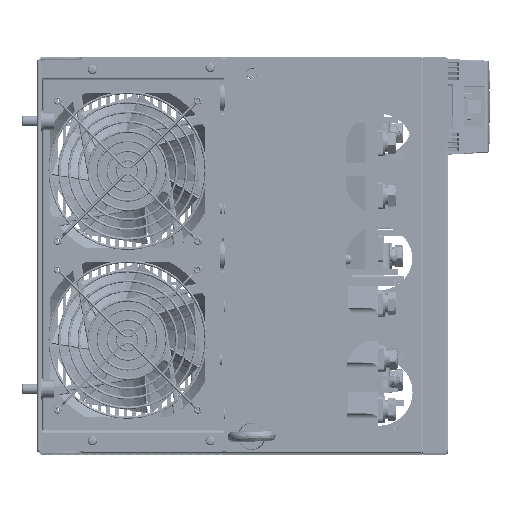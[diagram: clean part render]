
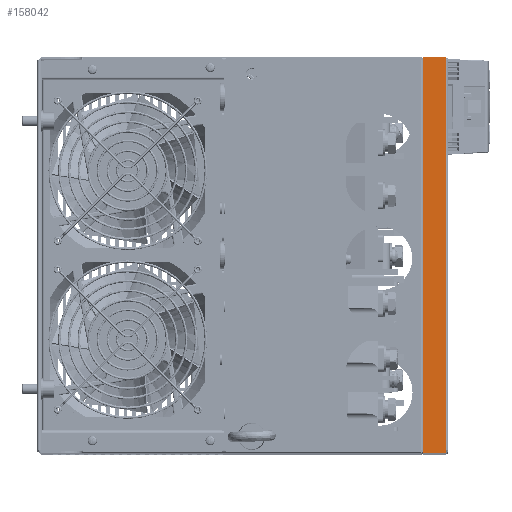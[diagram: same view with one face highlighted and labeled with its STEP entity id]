
A CAD part, top view. The second image highlights one B-rep face of the part: STEP entity #158042.
In plain terms, the highlighted planar face has unit normal (0, 0, 1) as drawn and (0, 1, 0) by its records, which use the part's own axes.
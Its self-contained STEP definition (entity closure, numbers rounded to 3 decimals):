
#5077 = DIRECTION ( 'NONE',  ( 0., 0., -1. ) ) ;
#6923 = DIRECTION ( 'NONE',  ( 1., 0., 0. ) ) ;
#7484 = EDGE_CURVE ( 'NONE', #315025, #40800, #360690, .T. ) ;
#10638 = EDGE_LOOP ( 'NONE', ( #304059, #217480, #206267, #31391, #15589, #357971 ) ) ;
#15589 = ORIENTED_EDGE ( 'NONE', *, *, #205919, .F. ) ;
#30702 = DIRECTION ( 'NONE',  ( -1., 0., 0. ) ) ;
#31391 = ORIENTED_EDGE ( 'NONE', *, *, #339237, .F. ) ;
#33962 = VERTEX_POINT ( 'NONE', #194041 ) ;
#35321 = CARTESIAN_POINT ( 'NONE',  ( -145.293, 65., -1.7 ) ) ;
#40800 = VERTEX_POINT ( 'NONE', #100882 ) ;
#54567 = AXIS2_PLACEMENT_3D ( 'NONE', #131150, #161274, #362054 ) ;
#55960 = LINE ( 'NONE', #115305, #352138 ) ;
#61134 = EDGE_CURVE ( 'NONE', #40800, #270768, #84206, .T. ) ;
#84206 = LINE ( 'NONE', #367227, #151377 ) ;
#84210 = VECTOR ( 'NONE', #5077, 1000. ) ;
#87148 = CARTESIAN_POINT ( 'NONE',  ( -145.293, 65., -1.7 ) ) ;
#94585 = CARTESIAN_POINT ( 'NONE',  ( 145.293, 65., -1.7 ) ) ;
#100882 = CARTESIAN_POINT ( 'NONE',  ( 147.5, 65., -1.7 ) ) ;
#107155 = VECTOR ( 'NONE', #199692, 1000. ) ;
#115305 = CARTESIAN_POINT ( 'NONE',  ( 0., 65., -1.7 ) ) ;
#120284 = CARTESIAN_POINT ( 'NONE',  ( -147.5, 65., -1.7 ) ) ;
#121180 = DIRECTION ( 'NONE',  ( 0., 0., -1. ) ) ;
#131150 = CARTESIAN_POINT ( 'NONE',  ( 0., 65., 0. ) ) ;
#150072 = CARTESIAN_POINT ( 'NONE',  ( 145.293, 65., -1.7 ) ) ;
#151377 = VECTOR ( 'NONE', #121180, 1000. ) ;
#158042 = ADVANCED_FACE ( 'NONE', ( #178334 ), #333230, .T. ) ;
#161274 = DIRECTION ( 'NONE',  ( 0., 1., 0. ) ) ;
#169400 = CARTESIAN_POINT ( 'NONE',  ( 147.5, 65., -18.5 ) ) ;
#178334 = FACE_OUTER_BOUND ( 'NONE', #10638, .T. ) ;
#182344 = CARTESIAN_POINT ( 'NONE',  ( -147.5, 65., -18.5 ) ) ;
#183413 = LINE ( 'NONE', #169400, #107155 ) ;
#194041 = CARTESIAN_POINT ( 'NONE',  ( -147.5, 65., -1.7 ) ) ;
#199692 = DIRECTION ( 'NONE',  ( 1., 0., 0. ) ) ;
#201995 = DIRECTION ( 'NONE',  ( 1., 0., 0. ) ) ;
#205919 = EDGE_CURVE ( 'NONE', #33962, #276017, #313089, .T. ) ;
#206267 = ORIENTED_EDGE ( 'NONE', *, *, #61134, .T. ) ;
#217170 = VECTOR ( 'NONE', #6923, 1000. ) ;
#217480 = ORIENTED_EDGE ( 'NONE', *, *, #7484, .T. ) ;
#222114 = VERTEX_POINT ( 'NONE', #35321 ) ;
#248573 = LINE ( 'NONE', #87148, #315854 ) ;
#264473 = CARTESIAN_POINT ( 'NONE',  ( 147.5, 65., -18.5 ) ) ;
#270768 = VERTEX_POINT ( 'NONE', #264473 ) ;
#276017 = VERTEX_POINT ( 'NONE', #182344 ) ;
#292936 = EDGE_CURVE ( 'NONE', #222114, #33962, #248573, .T. ) ;
#304059 = ORIENTED_EDGE ( 'NONE', *, *, #353305, .T. ) ;
#313089 = LINE ( 'NONE', #120284, #84210 ) ;
#315025 = VERTEX_POINT ( 'NONE', #150072 ) ;
#315854 = VECTOR ( 'NONE', #30702, 1000. ) ;
#333230 = PLANE ( 'NONE',  #54567 ) ;
#339237 = EDGE_CURVE ( 'NONE', #276017, #270768, #183413, .T. ) ;
#352138 = VECTOR ( 'NONE', #201995, 1000. ) ;
#353305 = EDGE_CURVE ( 'NONE', #222114, #315025, #55960, .T. ) ;
#357971 = ORIENTED_EDGE ( 'NONE', *, *, #292936, .F. ) ;
#360690 = LINE ( 'NONE', #94585, #217170 ) ;
#362054 = DIRECTION ( 'NONE',  ( 0., 0., 1. ) ) ;
#367227 = CARTESIAN_POINT ( 'NONE',  ( 147.5, 65., -1.7 ) ) ;
